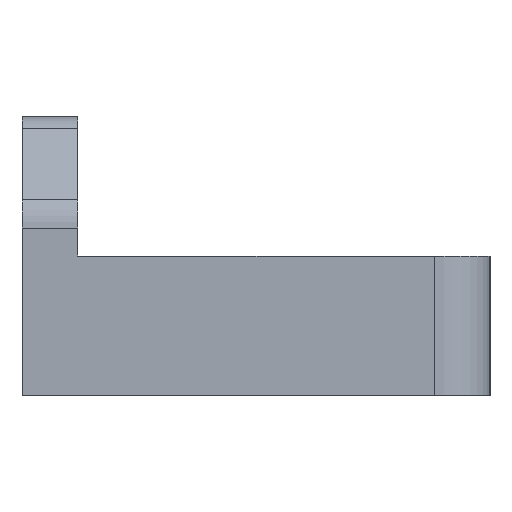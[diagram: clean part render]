
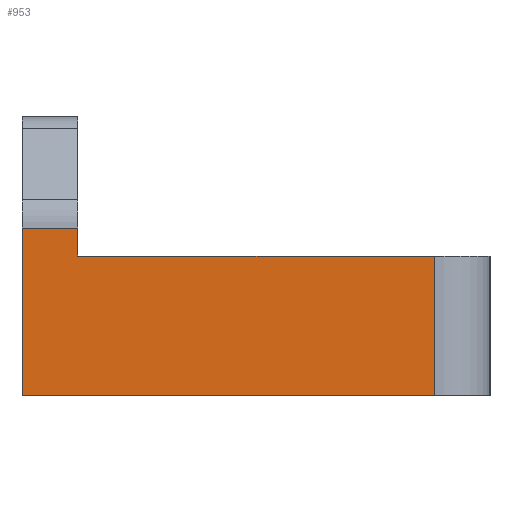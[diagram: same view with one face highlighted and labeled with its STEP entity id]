
A CAD part, left-side view. The second image highlights one B-rep face of the part: STEP entity #953.
In plain terms, the highlighted planar face has unit normal (-1, 0, 0).
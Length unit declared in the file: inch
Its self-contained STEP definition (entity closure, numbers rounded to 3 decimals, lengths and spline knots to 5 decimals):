
#57=PLANE($,#1028);
#91=FACE_OUTER_BOUND($,#148,.T.);
#148=EDGE_LOOP($,(#725,#726,#727,#728,#729,#730));
#208=LINE($,#1386,#308);
#229=LINE($,#1450,#329);
#238=LINE($,#1479,#338);
#240=LINE($,#1489,#340);
#241=LINE($,#1492,#341);
#242=LINE($,#1493,#342);
#308=VECTOR($,#1105,1.6);
#329=VECTOR($,#1150,0.625);
#338=VECTOR($,#1177,0.12544);
#340=VECTOR($,#1187,0.25);
#341=VECTOR($,#1190,0.75044);
#342=VECTOR($,#1191,1.85);
#426=VERTEX_POINT($,#1383);
#427=VERTEX_POINT($,#1385);
#458=VERTEX_POINT($,#1449);
#469=VERTEX_POINT($,#1477);
#473=VERTEX_POINT($,#1487);
#474=VERTEX_POINT($,#1491);
#522=EDGE_CURVE($,#426,#427,#208,.F.);
#554=EDGE_CURVE($,#427,#458,#229,.T.);
#569=EDGE_CURVE($,#469,#426,#238,.T.);
#574=EDGE_CURVE($,#473,#469,#240,.T.);
#575=EDGE_CURVE($,#474,#473,#241,.F.);
#576=EDGE_CURVE($,#474,#458,#242,.F.);
#725=ORIENTED_EDGE($,*,*,#554,.F.);
#726=ORIENTED_EDGE($,*,*,#522,.F.);
#727=ORIENTED_EDGE($,*,*,#569,.F.);
#728=ORIENTED_EDGE($,*,*,#574,.F.);
#729=ORIENTED_EDGE($,*,*,#575,.F.);
#730=ORIENTED_EDGE($,*,*,#576,.T.);
#953=ADVANCED_FACE($,(#91),#57,.T.);
#1028=AXIS2_PLACEMENT_3D($,#1490,#1188,#1189);
#1105=DIRECTION($,(0.,1.,0.));
#1150=DIRECTION($,(0.,0.,-1.));
#1177=DIRECTION($,(0.,0.,-1.));
#1187=DIRECTION($,(0.,-1.,0.));
#1188=DIRECTION('center_axis',(-1.,0.,0.));
#1189=DIRECTION('ref_axis',(0.,-1.,0.));
#1190=DIRECTION($,(0.,0.,-1.));
#1191=DIRECTION($,(0.,1.,0.));
#1383=CARTESIAN_POINT('',(0.2,1.875,0.625));
#1385=CARTESIAN_POINT('',(0.2,0.275,0.625));
#1386=CARTESIAN_POINT($,(0.2,1.5,0.625));
#1449=CARTESIAN_POINT('',(0.2,0.275,0.));
#1450=CARTESIAN_POINT($,(0.2,0.275,0.));
#1477=CARTESIAN_POINT('',(0.2,1.875,0.75044));
#1479=CARTESIAN_POINT($,(0.2,1.875,0.3125));
#1487=CARTESIAN_POINT('',(0.2,2.125,0.75044));
#1489=CARTESIAN_POINT($,(0.2,2.,0.75044));
#1490=CARTESIAN_POINT('Origin',(0.2,2.,0.));
#1491=CARTESIAN_POINT('',(0.2,2.125,0.));
#1492=CARTESIAN_POINT($,(0.2,2.125,0.));
#1493=CARTESIAN_POINT($,(0.2,1.5,0.));
